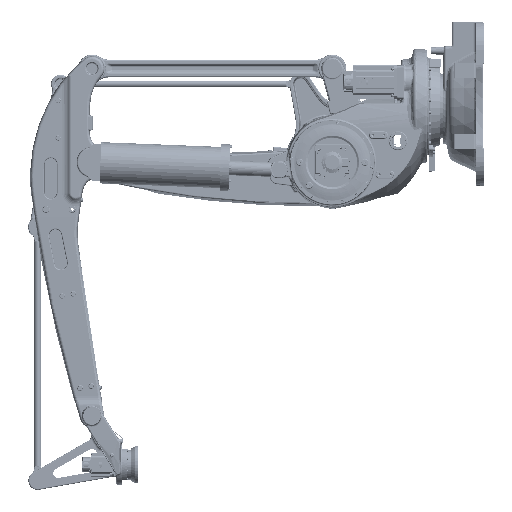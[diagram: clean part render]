
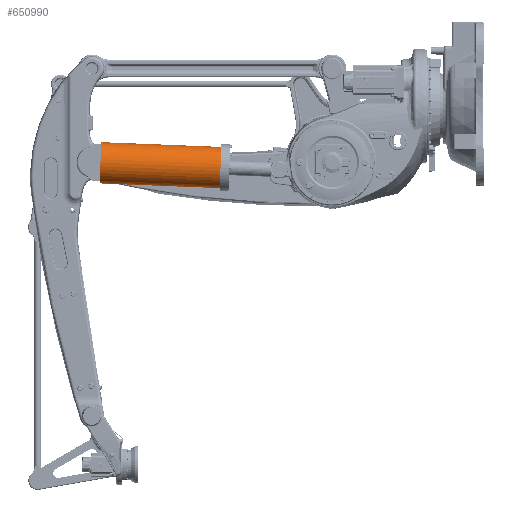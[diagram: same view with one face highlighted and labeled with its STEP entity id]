
A CAD part, left-side view. The second image highlights one B-rep face of the part: STEP entity #650990.
In plain terms, the highlighted cylindrical face has radius 110 mm (diameter 220 mm), a partial arc.
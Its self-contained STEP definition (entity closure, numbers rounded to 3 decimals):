
#4138 = DIRECTION ( 'NONE',  ( 0., -0.999, -0.04 ) ) ;
#25425 = EDGE_CURVE ( 'NONE', #567845, #462268, #352101, .T. ) ;
#38273 = CARTESIAN_POINT ( 'NONE',  ( -271.25, 1326.695, -218.488 ) ) ;
#132442 = VERTEX_POINT ( 'NONE', #256074 ) ;
#152702 = ORIENTED_EDGE ( 'NONE', *, *, #264527, .T. ) ;
#169224 = CYLINDRICAL_SURFACE ( 'NONE', #386658, 110. ) ;
#171711 = DIRECTION ( 'NONE',  ( 0., 0.999, 0.04 ) ) ;
#175553 = CARTESIAN_POINT ( 'NONE',  ( -271.25, 1996.166, -191.874 ) ) ;
#186616 = EDGE_LOOP ( 'NONE', ( #390648, #152702, #422338, #456793 ) ) ;
#194264 = VECTOR ( 'NONE', #498425, 1000. ) ;
#208584 = DIRECTION ( 'NONE',  ( 0., 0.999, 0.04 ) ) ;
#251186 = EDGE_CURVE ( 'NONE', #132442, #452479, #650953, .T. ) ;
#256074 = CARTESIAN_POINT ( 'NONE',  ( -271.25, 2004.905, -411.701 ) ) ;
#258789 = DIRECTION ( 'NONE',  ( 0., 0.999, 0.04 ) ) ;
#264527 = EDGE_CURVE ( 'NONE', #567845, #452479, #591279, .T. ) ;
#352101 = CIRCLE ( 'NONE', #521326, 110. ) ;
#357668 = LINE ( 'NONE', #619147, #551958 ) ;
#361412 = DIRECTION ( 'NONE',  ( 0., 0.04, -0.999 ) ) ;
#373656 = DIRECTION ( 'NONE',  ( 0., 0.04, -0.999 ) ) ;
#386658 = AXIS2_PLACEMENT_3D ( 'NONE', #619644, #258789, #361412 ) ;
#390648 = ORIENTED_EDGE ( 'NONE', *, *, #25425, .F. ) ;
#422338 = ORIENTED_EDGE ( 'NONE', *, *, #251186, .F. ) ;
#452479 = VERTEX_POINT ( 'NONE', #175553 ) ;
#456793 = ORIENTED_EDGE ( 'NONE', *, *, #486155, .F. ) ;
#462268 = VERTEX_POINT ( 'NONE', #631781 ) ;
#486155 = EDGE_CURVE ( 'NONE', #462268, #132442, #357668, .T. ) ;
#494310 = DIRECTION ( 'NONE',  ( 0., -0.04, 0.999 ) ) ;
#498425 = DIRECTION ( 'NONE',  ( 0., 0.999, 0.04 ) ) ;
#521326 = AXIS2_PLACEMENT_3D ( 'NONE', #557109, #4138, #494310 ) ;
#545041 = AXIS2_PLACEMENT_3D ( 'NONE', #625382, #171711, #373656 ) ;
#549972 = CARTESIAN_POINT ( 'NONE',  ( -271.25, 1356.671, -217.296 ) ) ;
#551958 = VECTOR ( 'NONE', #208584, 1000. ) ;
#557109 = CARTESIAN_POINT ( 'NONE',  ( -271.25, 1361.041, -327.209 ) ) ;
#567845 = VERTEX_POINT ( 'NONE', #549972 ) ;
#591279 = LINE ( 'NONE', #38273, #194264 ) ;
#619147 = CARTESIAN_POINT ( 'NONE',  ( -271.25, 1335.434, -438.314 ) ) ;
#619644 = CARTESIAN_POINT ( 'NONE',  ( -271.25, 1331.064, -328.401 ) ) ;
#622886 = FACE_OUTER_BOUND ( 'NONE', #186616, .T. ) ;
#625382 = CARTESIAN_POINT ( 'NONE',  ( -271.25, 2000.536, -301.787 ) ) ;
#631781 = CARTESIAN_POINT ( 'NONE',  ( -271.25, 1365.41, -437.122 ) ) ;
#650953 = CIRCLE ( 'NONE', #545041, 110. ) ;
#650990 = ADVANCED_FACE ( 'NONE', ( #622886 ), #169224, .T. ) ;
